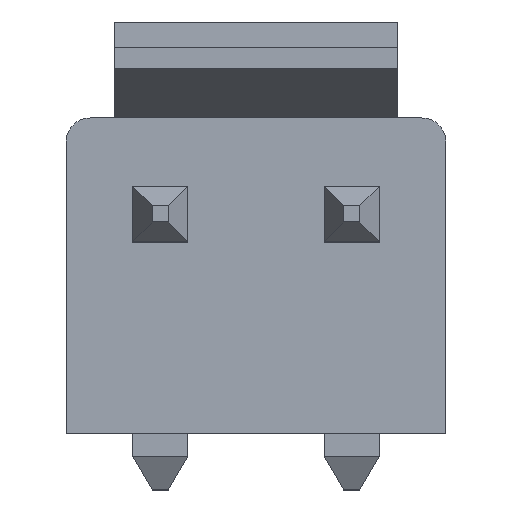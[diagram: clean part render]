
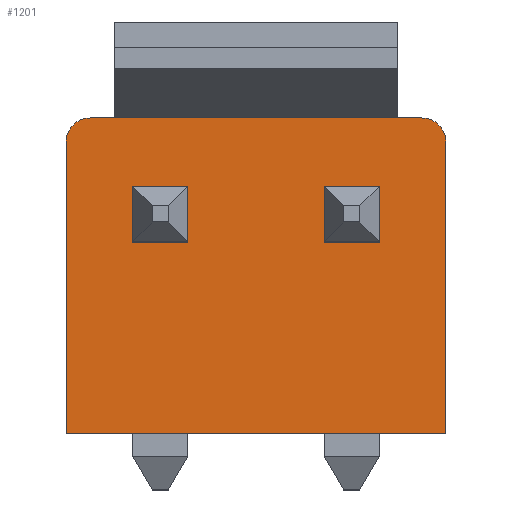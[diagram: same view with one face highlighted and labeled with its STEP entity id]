
A CAD part, top view. The second image highlights one B-rep face of the part: STEP entity #1201.
In plain terms, the highlighted planar face has unit normal (0, 0, 1).
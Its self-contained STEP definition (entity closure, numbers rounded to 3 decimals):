
#2 = ORIENTED_EDGE ( 'NONE', *, *, #1177, .T. ) ;
#3 = DIRECTION ( 'NONE',  ( -1., 0., 0. ) ) ;
#7 = VECTOR ( 'NONE', #688, 1000. ) ;
#58 = EDGE_CURVE ( 'NONE', #127, #1729, #843, .T. ) ;
#61 = EDGE_CURVE ( 'NONE', #1275, #954, #1738, .T. ) ;
#63 = DIRECTION ( 'NONE',  ( 1., 0., 0. ) ) ;
#69 = VECTOR ( 'NONE', #2392, 1000. ) ;
#82 = DIRECTION ( 'NONE',  ( 0., -1., 0. ) ) ;
#106 = DIRECTION ( 'NONE',  ( 0., 1., 0. ) ) ;
#125 = CARTESIAN_POINT ( 'NONE',  ( -3.39, -1.43, 2.841 ) ) ;
#127 = VERTEX_POINT ( 'NONE', #1814 ) ;
#139 = LINE ( 'NONE', #1232, #7 ) ;
#150 = LINE ( 'NONE', #1794, #1652 ) ;
#178 = ORIENTED_EDGE ( 'NONE', *, *, #1040, .T. ) ;
#181 = ORIENTED_EDGE ( 'NONE', *, *, #1407, .F. ) ;
#218 = DIRECTION ( 'NONE',  ( 1., 0., 0. ) ) ;
#233 = CARTESIAN_POINT ( 'NONE',  ( -2.01, -1.43, 2.841 ) ) ;
#236 = AXIS2_PLACEMENT_3D ( 'NONE', #1459, #1469, #1448 ) ;
#245 = EDGE_CURVE ( 'NONE', #1433, #1490, #1663, .T. ) ;
#251 = VECTOR ( 'NONE', #218, 1000. ) ;
#254 = ORIENTED_EDGE ( 'NONE', *, *, #354, .T. ) ;
#258 = LINE ( 'NONE', #2313, #1299 ) ;
#271 = VECTOR ( 'NONE', #1236, 1000. ) ;
#293 = LINE ( 'NONE', #1603, #1887 ) ;
#297 = VERTEX_POINT ( 'NONE', #758 ) ;
#307 = VERTEX_POINT ( 'NONE', #1290 ) ;
#332 = ORIENTED_EDGE ( 'NONE', *, *, #2108, .F. ) ;
#354 = EDGE_CURVE ( 'NONE', #1434, #888, #2193, .T. ) ;
#394 = LINE ( 'NONE', #977, #507 ) ;
#398 = VERTEX_POINT ( 'NONE', #1999 ) ;
#440 = VECTOR ( 'NONE', #710, 1000. ) ;
#445 = ORIENTED_EDGE ( 'NONE', *, *, #624, .T. ) ;
#454 = CARTESIAN_POINT ( 'NONE',  ( -2.01, -6.525, 2.841 ) ) ;
#489 = DIRECTION ( 'NONE',  ( -1., 0., 0. ) ) ;
#496 = ORIENTED_EDGE ( 'NONE', *, *, #513, .T. ) ;
#507 = VECTOR ( 'NONE', #63, 1000. ) ;
#513 = EDGE_CURVE ( 'NONE', #954, #297, #785, .T. ) ;
#519 = EDGE_LOOP ( 'NONE', ( #445, #181, #332, #526, #2382, #2016, #496, #550 ) ) ;
#526 = ORIENTED_EDGE ( 'NONE', *, *, #1120, .T. ) ;
#550 = ORIENTED_EDGE ( 'NONE', *, *, #803, .T. ) ;
#621 = CARTESIAN_POINT ( 'NONE',  ( -9.37, -0.5, 2.841 ) ) ;
#624 = EDGE_CURVE ( 'NONE', #1312, #1084, #876, .T. ) ;
#632 = DIRECTION ( 'NONE',  ( -1., 0., 0. ) ) ;
#659 = CARTESIAN_POINT ( 'NONE',  ( 9.87, 0., 2.841 ) ) ;
#677 = DIRECTION ( 'NONE',  ( -1., 0., 0. ) ) ;
#678 = FACE_BOUND ( 'NONE', #976, .T. ) ;
#688 = DIRECTION ( 'NONE',  ( 0., 1., 0. ) ) ;
#710 = DIRECTION ( 'NONE',  ( 0., -1., 0. ) ) ;
#758 = CARTESIAN_POINT ( 'NONE',  ( -9.37, 0., 2.841 ) ) ;
#760 = VERTEX_POINT ( 'NONE', #454 ) ;
#785 = LINE ( 'NONE', #659, #908 ) ;
#803 = EDGE_CURVE ( 'NONE', #297, #1312, #2285, .T. ) ;
#808 = DIRECTION ( 'NONE',  ( -1., 0., 0. ) ) ;
#822 = DIRECTION ( 'NONE',  ( -1., 0., 0. ) ) ;
#840 = DIRECTION ( 'NONE',  ( 0., 0., 1. ) ) ;
#843 = LINE ( 'NONE', #1235, #887 ) ;
#876 = LINE ( 'NONE', #1629, #69 ) ;
#880 = CARTESIAN_POINT ( 'NONE',  ( -7.35, -1.43, 2.841 ) ) ;
#881 = PLANE ( 'NONE',  #236 ) ;
#887 = VECTOR ( 'NONE', #106, 1000. ) ;
#888 = VERTEX_POINT ( 'NONE', #2174 ) ;
#908 = VECTOR ( 'NONE', #2066, 1000. ) ;
#954 = VERTEX_POINT ( 'NONE', #1637 ) ;
#976 = EDGE_LOOP ( 'NONE', ( #178, #1011, #2202, #2338 ) ) ;
#977 = CARTESIAN_POINT ( 'NONE',  ( -2.01, -1.43, 2.841 ) ) ;
#980 = CARTESIAN_POINT ( 'NONE',  ( -9.87, -0.5, 2.841 ) ) ;
#1011 = ORIENTED_EDGE ( 'NONE', *, *, #58, .T. ) ;
#1040 = EDGE_CURVE ( 'NONE', #398, #127, #258, .T. ) ;
#1063 = VERTEX_POINT ( 'NONE', #1179 ) ;
#1078 = CARTESIAN_POINT ( 'NONE',  ( -3.39, 0., 2.841 ) ) ;
#1084 = VERTEX_POINT ( 'NONE', #1735 ) ;
#1113 = EDGE_CURVE ( 'NONE', #1490, #1434, #2172, .T. ) ;
#1120 = EDGE_CURVE ( 'NONE', #307, #1063, #1783, .T. ) ;
#1177 = EDGE_CURVE ( 'NONE', #888, #1433, #139, .T. ) ;
#1179 = CARTESIAN_POINT ( 'NONE',  ( -2.51, 0., 2.841 ) ) ;
#1186 = CARTESIAN_POINT ( 'NONE',  ( -3.39, -2.57, 2.841 ) ) ;
#1188 = VECTOR ( 'NONE', #3, 1000. ) ;
#1197 = CARTESIAN_POINT ( 'NONE',  ( -2.01, -6.525, 2.841 ) ) ;
#1201 = ADVANCED_FACE ( 'NONE', ( #1949, #678, #1589 ), #881, .F. ) ;
#1224 = DIRECTION ( 'NONE',  ( -1., 0., 0. ) ) ;
#1225 = CARTESIAN_POINT ( 'NONE',  ( -2.01, 0., 2.841 ) ) ;
#1232 = CARTESIAN_POINT ( 'NONE',  ( -4.53, 0., 2.841 ) ) ;
#1235 = CARTESIAN_POINT ( 'NONE',  ( -8.49, 0., 2.841 ) ) ;
#1236 = DIRECTION ( 'NONE',  ( 0., -1., 0. ) ) ;
#1275 = VERTEX_POINT ( 'NONE', #1822 ) ;
#1290 = CARTESIAN_POINT ( 'NONE',  ( -2.01, -0.5, 2.841 ) ) ;
#1299 = VECTOR ( 'NONE', #632, 1000. ) ;
#1312 = VERTEX_POINT ( 'NONE', #980 ) ;
#1316 = ORIENTED_EDGE ( 'NONE', *, *, #245, .T. ) ;
#1396 = LINE ( 'NONE', #1225, #271 ) ;
#1407 = EDGE_CURVE ( 'NONE', #760, #1084, #2258, .T. ) ;
#1433 = VERTEX_POINT ( 'NONE', #2076 ) ;
#1434 = VERTEX_POINT ( 'NONE', #1186 ) ;
#1448 = DIRECTION ( 'NONE',  ( 0., -1., 0. ) ) ;
#1459 = CARTESIAN_POINT ( 'NONE',  ( -2.01, 0., 2.841 ) ) ;
#1469 = DIRECTION ( 'NONE',  ( 0., 0., -1. ) ) ;
#1490 = VERTEX_POINT ( 'NONE', #125 ) ;
#1568 = CARTESIAN_POINT ( 'NONE',  ( -2.01, 0., 2.841 ) ) ;
#1589 = FACE_OUTER_BOUND ( 'NONE', #519, .T. ) ;
#1600 = CARTESIAN_POINT ( 'NONE',  ( -2.51, -0.5, 2.841 ) ) ;
#1603 = CARTESIAN_POINT ( 'NONE',  ( -7.35, 0., 2.841 ) ) ;
#1629 = CARTESIAN_POINT ( 'NONE',  ( -9.87, 0., 2.841 ) ) ;
#1637 = CARTESIAN_POINT ( 'NONE',  ( -8.87, 0., 2.841 ) ) ;
#1649 = CARTESIAN_POINT ( 'NONE',  ( -8.49, -1.43, 2.841 ) ) ;
#1652 = VECTOR ( 'NONE', #677, 1000. ) ;
#1663 = LINE ( 'NONE', #233, #251 ) ;
#1712 = DIRECTION ( 'NONE',  ( 0., 0., 1. ) ) ;
#1729 = VERTEX_POINT ( 'NONE', #1649 ) ;
#1735 = CARTESIAN_POINT ( 'NONE',  ( -9.87, -6.525, 2.841 ) ) ;
#1738 = LINE ( 'NONE', #1568, #1760 ) ;
#1760 = VECTOR ( 'NONE', #1224, 1000. ) ;
#1778 = EDGE_LOOP ( 'NONE', ( #254, #2, #1316, #2075 ) ) ;
#1783 = CIRCLE ( 'NONE', #2111, 0.5 ) ;
#1794 = CARTESIAN_POINT ( 'NONE',  ( -2.01, 0., 2.841 ) ) ;
#1814 = CARTESIAN_POINT ( 'NONE',  ( -8.49, -2.57, 2.841 ) ) ;
#1822 = CARTESIAN_POINT ( 'NONE',  ( -3.01, 0., 2.841 ) ) ;
#1848 = VERTEX_POINT ( 'NONE', #880 ) ;
#1858 = EDGE_CURVE ( 'NONE', #1063, #1275, #150, .T. ) ;
#1887 = VECTOR ( 'NONE', #82, 1000. ) ;
#1929 = EDGE_CURVE ( 'NONE', #1729, #1848, #394, .T. ) ;
#1949 = FACE_BOUND ( 'NONE', #1778, .T. ) ;
#1999 = CARTESIAN_POINT ( 'NONE',  ( -7.35, -2.57, 2.841 ) ) ;
#2016 = ORIENTED_EDGE ( 'NONE', *, *, #61, .T. ) ;
#2020 = VECTOR ( 'NONE', #808, 1000. ) ;
#2066 = DIRECTION ( 'NONE',  ( -1., 0., 0. ) ) ;
#2075 = ORIENTED_EDGE ( 'NONE', *, *, #1113, .T. ) ;
#2076 = CARTESIAN_POINT ( 'NONE',  ( -4.53, -1.43, 2.841 ) ) ;
#2077 = EDGE_CURVE ( 'NONE', #1848, #398, #293, .T. ) ;
#2108 = EDGE_CURVE ( 'NONE', #307, #760, #1396, .T. ) ;
#2111 = AXIS2_PLACEMENT_3D ( 'NONE', #1600, #840, #489 ) ;
#2172 = LINE ( 'NONE', #1078, #440 ) ;
#2174 = CARTESIAN_POINT ( 'NONE',  ( -4.53, -2.57, 2.841 ) ) ;
#2193 = LINE ( 'NONE', #2231, #1188 ) ;
#2202 = ORIENTED_EDGE ( 'NONE', *, *, #1929, .T. ) ;
#2231 = CARTESIAN_POINT ( 'NONE',  ( -2.01, -2.57, 2.841 ) ) ;
#2258 = LINE ( 'NONE', #1197, #2020 ) ;
#2285 = CIRCLE ( 'NONE', #2325, 0.5 ) ;
#2313 = CARTESIAN_POINT ( 'NONE',  ( -2.01, -2.57, 2.841 ) ) ;
#2325 = AXIS2_PLACEMENT_3D ( 'NONE', #621, #1712, #822 ) ;
#2338 = ORIENTED_EDGE ( 'NONE', *, *, #2077, .T. ) ;
#2382 = ORIENTED_EDGE ( 'NONE', *, *, #1858, .T. ) ;
#2392 = DIRECTION ( 'NONE',  ( 0., -1., 0. ) ) ;
